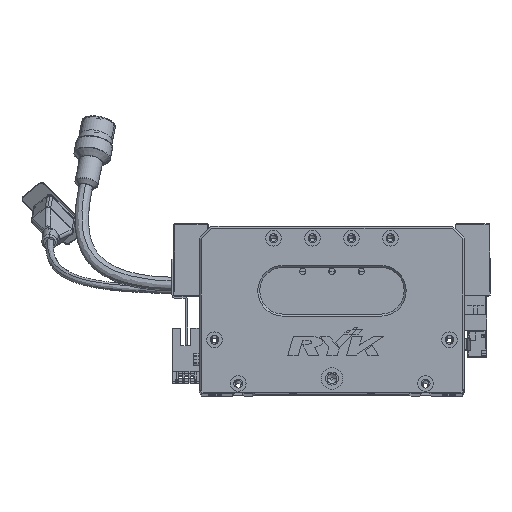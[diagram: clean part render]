
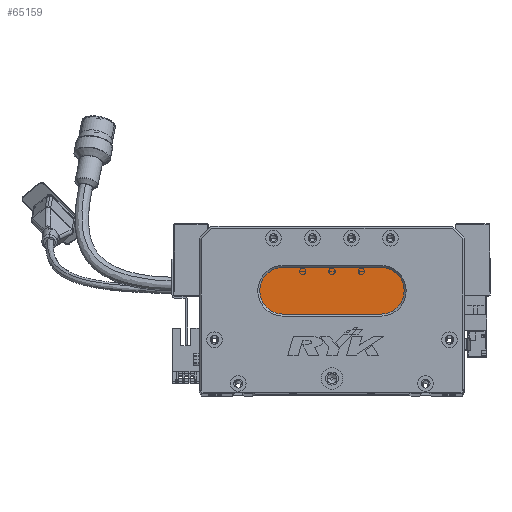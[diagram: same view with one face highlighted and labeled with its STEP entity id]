
A CAD part, top view. The second image highlights one B-rep face of the part: STEP entity #65159.
In plain terms, the highlighted planar face has unit normal (0, 0, 1) as drawn and (0, 0, -1) by its records, which use the part's own axes.
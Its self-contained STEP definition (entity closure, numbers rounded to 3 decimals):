
#679 = CARTESIAN_POINT ( 'NONE',  ( 43., 40., 13. ) ) ;
#1078 = AXIS2_PLACEMENT_3D ( 'NONE', #8390, #65786, #7554 ) ;
#4378 = DIRECTION ( 'NONE',  ( -1., 0., 0. ) ) ;
#5999 = DIRECTION ( 'NONE',  ( -1., 0., 0. ) ) ;
#6305 = VERTEX_POINT ( 'NONE', #59406 ) ;
#7554 = DIRECTION ( 'NONE',  ( -1., 0., 0. ) ) ;
#8368 = EDGE_CURVE ( 'NONE', #6305, #51888, #27642, .T. ) ;
#8390 = CARTESIAN_POINT ( 'NONE',  ( 43., 52., 13. ) ) ;
#10426 = VERTEX_POINT ( 'NONE', #679 ) ;
#10784 = ORIENTED_EDGE ( 'NONE', *, *, #22860, .T. ) ;
#14511 = ORIENTED_EDGE ( 'NONE', *, *, #8368, .T. ) ;
#16016 = AXIS2_PLACEMENT_3D ( 'NONE', #43957, #83412, #5999 ) ;
#16942 = CARTESIAN_POINT ( 'NONE',  ( 31., 52., 13. ) ) ;
#18031 = ORIENTED_EDGE ( 'NONE', *, *, #36937, .T. ) ;
#21136 = CARTESIAN_POINT ( 'NONE',  ( 93., 40., 13. ) ) ;
#22420 = CARTESIAN_POINT ( 'NONE',  ( 93., 52., 13. ) ) ;
#22860 = EDGE_CURVE ( 'NONE', #51888, #10426, #66711, .T. ) ;
#22976 = DIRECTION ( 'NONE',  ( 0., 0., -1. ) ) ;
#25780 = VERTEX_POINT ( 'NONE', #71510 ) ;
#27642 = CIRCLE ( 'NONE', #46248, 12. ) ;
#27826 = ORIENTED_EDGE ( 'NONE', *, *, #71831, .T. ) ;
#31142 = ORIENTED_EDGE ( 'NONE', *, *, #34520, .T. ) ;
#34520 = EDGE_CURVE ( 'NONE', #10426, #67499, #74211, .T. ) ;
#36523 = VECTOR ( 'NONE', #4378, 1000. ) ;
#36937 = EDGE_CURVE ( 'NONE', #67499, #25780, #51434, .T. ) ;
#39411 = FACE_OUTER_BOUND ( 'NONE', #53194, .T. ) ;
#42386 = DIRECTION ( 'NONE',  ( -1., 0., 0. ) ) ;
#43379 = AXIS2_PLACEMENT_3D ( 'NONE', #79303, #47155, #53645 ) ;
#43957 = CARTESIAN_POINT ( 'NONE',  ( 43., 52., 13. ) ) ;
#46248 = AXIS2_PLACEMENT_3D ( 'NONE', #22420, #22976, #42386 ) ;
#47155 = DIRECTION ( 'NONE',  ( 0., 0., -1. ) ) ;
#51434 = CIRCLE ( 'NONE', #1078, 12. ) ;
#51888 = VERTEX_POINT ( 'NONE', #21136 ) ;
#52997 = DIRECTION ( 'NONE',  ( 1., 0., 0. ) ) ;
#53194 = EDGE_LOOP ( 'NONE', ( #14511, #10784, #31142, #18031, #27826 ) ) ;
#53645 = DIRECTION ( 'NONE',  ( -1., 0., 0. ) ) ;
#55571 = CARTESIAN_POINT ( 'NONE',  ( 93., 40., 13. ) ) ;
#59406 = CARTESIAN_POINT ( 'NONE',  ( 93., 64., 13. ) ) ;
#59525 = PLANE ( 'NONE',  #43379 ) ;
#59926 = VECTOR ( 'NONE', #52997, 1000. ) ;
#65159 = ADVANCED_FACE ( 'NONE', ( #39411 ), #59525, .T. ) ;
#65786 = DIRECTION ( 'NONE',  ( 0., 0., -1. ) ) ;
#66711 = LINE ( 'NONE', #55571, #36523 ) ;
#67499 = VERTEX_POINT ( 'NONE', #16942 ) ;
#71510 = CARTESIAN_POINT ( 'NONE',  ( 43., 64., 13. ) ) ;
#71831 = EDGE_CURVE ( 'NONE', #25780, #6305, #76027, .T. ) ;
#72128 = CARTESIAN_POINT ( 'NONE',  ( 93., 64., 13. ) ) ;
#74211 = CIRCLE ( 'NONE', #16016, 12. ) ;
#76027 = LINE ( 'NONE', #72128, #59926 ) ;
#79303 = CARTESIAN_POINT ( 'NONE',  ( 93., 52., 13. ) ) ;
#83412 = DIRECTION ( 'NONE',  ( 0., 0., -1. ) ) ;
